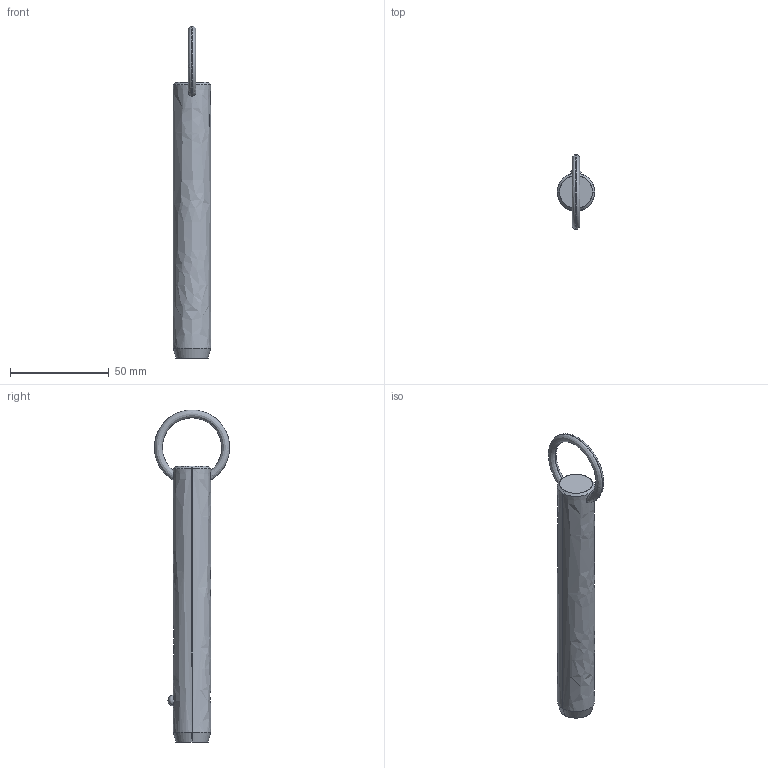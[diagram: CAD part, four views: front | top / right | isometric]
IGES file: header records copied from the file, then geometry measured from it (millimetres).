
Start section: SolidWorks IGES file using analytic representation for surfaces
Global section: file name: C:\Users\liam_\OneDrive\Documents\WORK\Work for WixRoyd\Job Files\J-00019 - Matt Davis CAD Checking\04. CAD Drawings\automotion20190605\P1250.2_v2\P1250.2_v2_20190729_IGES\P1250.075-420.igs; native system: SolidWorks 2017; preprocessor: SolidWorks 2017; author: liam_; date: 190729.235426; units: millimetre
Bounding box: 19 x 38.07 x 168.49 mm (x, y, z)
Surface area: 9883.5 mm2 (no closed solid volume)
Topology: 0 solids, 0 shells, 12 faces, 294 edges, 292 vertices
Faces by surface type: revolution 8, bspline 4
